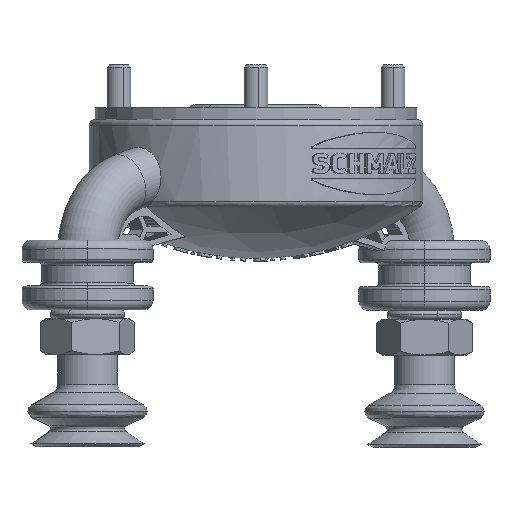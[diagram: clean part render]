
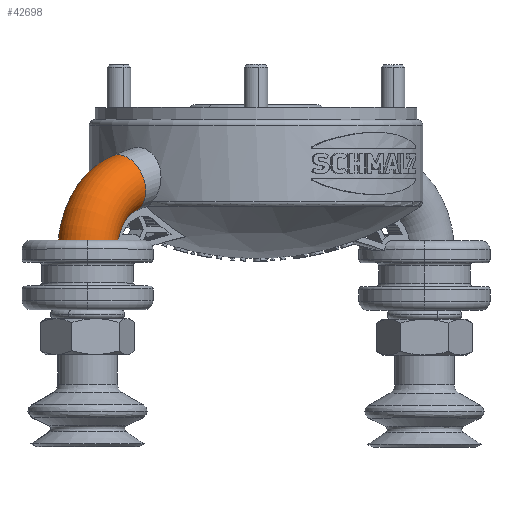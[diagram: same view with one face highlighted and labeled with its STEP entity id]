
A CAD part, top view. The second image highlights one B-rep face of the part: STEP entity #42698.
In plain terms, the highlighted toroidal (fillet/blend) face has major radius 12 mm and minor radius 5 mm.
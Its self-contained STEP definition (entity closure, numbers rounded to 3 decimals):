
#211 = CIRCLE ( 'NONE', #34033, 7.23 ) ;
#1156 = CARTESIAN_POINT ( 'NONE',  ( -23.238, -12., 26.886 ) ) ;
#1603 = CARTESIAN_POINT ( 'NONE',  ( -25.425, -12., 32.361 ) ) ;
#1820 = CARTESIAN_POINT ( 'NONE',  ( -23.19, -12., 28.967 ) ) ;
#2035 = CARTESIAN_POINT ( 'NONE',  ( -33.115, -12., 29.142 ) ) ;
#2721 = CARTESIAN_POINT ( 'NONE',  ( -26.319, -12., 23.406 ) ) ;
#3332 = ORIENTED_EDGE ( 'NONE', *, *, #42890, .F. ) ;
#4003 = ORIENTED_EDGE ( 'NONE', *, *, #20558, .T. ) ;
#4583 = CARTESIAN_POINT ( 'NONE',  ( -32.478, -12., 30.806 ) ) ;
#4811 = CARTESIAN_POINT ( 'NONE',  ( -32.9, -12., 26.498 ) ) ;
#5252 = CARTESIAN_POINT ( 'NONE',  ( -31.523, -12., 31.949 ) ) ;
#5657 = DIRECTION ( 'NONE',  ( -0.679, -0.279, 0.679 ) ) ;
#6719 = CIRCLE ( 'NONE', #10417, 7.23 ) ;
#8039 = CARTESIAN_POINT ( 'NONE',  ( -29.999, -12., 32.873 ) ) ;
#8273 = CARTESIAN_POINT ( 'NONE',  ( -28.84, -12., 33.162 ) ) ;
#8504 = CARTESIAN_POINT ( 'NONE',  ( -32.522, -12., 25.684 ) ) ;
#8717 = CARTESIAN_POINT ( 'NONE',  ( -30.801, -12., 32.481 ) ) ;
#8948 = CARTESIAN_POINT ( 'NONE',  ( -33.202, -12., 28.255 ) ) ;
#9542 = EDGE_LOOP ( 'NONE', ( #3332, #35338, #4003, #31862 ) ) ;
#9883 = DIRECTION ( 'NONE',  ( 0.707, 0., -0.707 ) ) ;
#10417 = AXIS2_PLACEMENT_3D ( 'NONE', #11149, #41788, #18050 ) ;
#11044 = CARTESIAN_POINT ( 'NONE',  ( -19.799, -14., 19.799 ) ) ;
#11149 = CARTESIAN_POINT ( 'NONE',  ( -18.738, -14., 20.86 ) ) ;
#11715 = CARTESIAN_POINT ( 'NONE',  ( -23.144, -12., 28.668 ) ) ;
#11948 = CARTESIAN_POINT ( 'NONE',  ( -23.178, -12., 27.184 ) ) ;
#12174 = CARTESIAN_POINT ( 'NONE',  ( -25.773, -12., 23.651 ) ) ;
#12395 = CARTESIAN_POINT ( 'NONE',  ( -33.161, -12., 28.849 ) ) ;
#12616 = CARTESIAN_POINT ( 'NONE',  ( -23.407, -12., 26.315 ) ) ;
#12876 = DIRECTION ( 'NONE',  ( 0.707, 0., 0.707 ) ) ;
#13032 = DIRECTION ( 'NONE',  ( 0.707, 0., 0.707 ) ) ;
#15163 = CARTESIAN_POINT ( 'NONE',  ( -32.624, -12., 30.548 ) ) ;
#15395 = CARTESIAN_POINT ( 'NONE',  ( -23.112, -12., 27.775 ) ) ;
#15537 = TOROIDAL_SURFACE ( 'NONE', #29493, 12., 5. ) ;
#15713 = VERTEX_POINT ( 'NONE', #35649 ) ;
#15844 = CARTESIAN_POINT ( 'NONE',  ( -23.329, -12., 29.545 ) ) ;
#16062 = CARTESIAN_POINT ( 'NONE',  ( -23.423, -12., 29.826 ) ) ;
#16417 = CIRCLE ( 'NONE', #42169, 5. ) ;
#18050 = DIRECTION ( 'NONE',  ( 0.707, 0., -0.707 ) ) ;
#19065 = CARTESIAN_POINT ( 'NONE',  ( -30.54, -12., 32.628 ) ) ;
#19505 = CARTESIAN_POINT ( 'NONE',  ( -23.106, -12., 28.072 ) ) ;
#19730 = CARTESIAN_POINT ( 'NONE',  ( -31.382, -12., 24.293 ) ) ;
#20558 = EDGE_CURVE ( 'NONE', #38050, #39756, #211, .T. ) ;
#20929 = DIRECTION ( 'NONE',  ( -0.707, 0., -0.707 ) ) ;
#21823 = EDGE_CURVE ( 'NONE', #15713, #38050, #16417, .T. ) ;
#22050 = CARTESIAN_POINT ( 'NONE',  ( -23.805, -12., 30.64 ) ) ;
#22284 = CARTESIAN_POINT ( 'NONE',  ( -29.134, -12., 33.117 ) ) ;
#22507 = CARTESIAN_POINT ( 'NONE',  ( -32.366, -12., 25.432 ) ) ;
#22729 = CARTESIAN_POINT ( 'NONE',  ( -31.295, -12., 32.14 ) ) ;
#22758 = CARTESIAN_POINT ( 'NONE',  ( -20.86, -14., 18.738 ) ) ;
#22952 = CARTESIAN_POINT ( 'NONE',  ( -32.97, -12., 29.721 ) ) ;
#24812 = FACE_OUTER_BOUND ( 'NONE', #9542, .T. ) ;
#25729 = CARTESIAN_POINT ( 'NONE',  ( -23.516, -12., 26.039 ) ) ;
#25961 = CARTESIAN_POINT ( 'NONE',  ( -32.789, -12., 26.216 ) ) ;
#26183 = CARTESIAN_POINT ( 'NONE',  ( -24.725, -12., 31.806 ) ) ;
#26624 = CARTESIAN_POINT ( 'NONE',  ( -29.542, -12., 23.328 ) ) ;
#27322 = CARTESIAN_POINT ( 'NONE',  ( -28.964, -12., 23.189 ) ) ;
#27545 = CARTESIAN_POINT ( 'NONE',  ( -26.038, -12., 23.517 ) ) ;
#29196 = CARTESIAN_POINT ( 'NONE',  ( -24.131, -12., 31.136 ) ) ;
#29430 = CARTESIAN_POINT ( 'NONE',  ( -26.492, -12., 32.898 ) ) ;
#29479 = VERTEX_POINT ( 'NONE', #33157 ) ;
#29493 = AXIS2_PLACEMENT_3D ( 'NONE', #11044, #20929, #35030 ) ;
#29649 = CARTESIAN_POINT ( 'NONE',  ( -23.661, -12., 30.375 ) ) ;
#29867 = CARTESIAN_POINT ( 'NONE',  ( -32.87, -12., 30.007 ) ) ;
#30101 = CARTESIAN_POINT ( 'NONE',  ( -27.352, -12., 33.127 ) ) ;
#30565 = CARTESIAN_POINT ( 'NONE',  ( -27.182, -12., 23.178 ) ) ;
#31244 = CARTESIAN_POINT ( 'NONE',  ( -29.829, -12., 23.424 ) ) ;
#31862 = ORIENTED_EDGE ( 'NONE', *, *, #39765, .F. ) ;
#32679 = CARTESIAN_POINT ( 'NONE',  ( -23.651, -12., 25.773 ) ) ;
#33157 = CARTESIAN_POINT ( 'NONE',  ( -23.651, -12., 25.773 ) ) ;
#33359 = CARTESIAN_POINT ( 'NONE',  ( -24.95, -12., 32.006 ) ) ;
#33579 = CARTESIAN_POINT ( 'NONE',  ( -24.315, -12., 31.37 ) ) ;
#34033 = AXIS2_PLACEMENT_3D ( 'NONE', #22758, #12876, #9883 ) ;
#35030 = DIRECTION ( 'NONE',  ( -0.707, 0., 0.707 ) ) ;
#35338 = ORIENTED_EDGE ( 'NONE', *, *, #21823, .T. ) ;
#35649 = CARTESIAN_POINT ( 'NONE',  ( -20.167, -7.058, 22.288 ) ) ;
#36148 = CARTESIAN_POINT ( 'NONE',  ( -32.137, -12., 31.298 ) ) ;
#36376 = CARTESIAN_POINT ( 'NONE',  ( -31.943, -12., 31.53 ) ) ;
#36597 = CARTESIAN_POINT ( 'NONE',  ( -31.83, -12., 24.713 ) ) ;
#36825 = CARTESIAN_POINT ( 'NONE',  ( -27.949, -12., 33.195 ) ) ;
#37461 = CARTESIAN_POINT ( 'NONE',  ( -22.17, -2.478, 22.17 ) ) ;
#37501 = CARTESIAN_POINT ( 'NONE',  ( -30.376, -12., 23.662 ) ) ;
#37957 = CARTESIAN_POINT ( 'NONE',  ( -28.075, -12., 23.106 ) ) ;
#38050 = VERTEX_POINT ( 'NONE', #38525 ) ;
#38525 = CARTESIAN_POINT ( 'NONE',  ( -22.288, -7.058, 20.167 ) ) ;
#39581 = CARTESIAN_POINT ( 'NONE',  ( -26.213, -12., 32.787 ) ) ;
#39756 = VERTEX_POINT ( 'NONE', #12174 ) ;
#39765 = EDGE_CURVE ( 'NONE', #29479, #39756, #40858, .T. ) ;
#39819 = CARTESIAN_POINT ( 'NONE',  ( -33.07, -12., 27.069 ) ) ;
#40252 = CARTESIAN_POINT ( 'NONE',  ( -28.248, -12., 33.202 ) ) ;
#40478 = CARTESIAN_POINT ( 'NONE',  ( -25.678, -12., 32.518 ) ) ;
#40858 = B_SPLINE_CURVE_WITH_KNOTS ( 'NONE', 3,
 ( #32679, #25729, #12616, #1156, #11948, #15395, #19505, #11715, #1820, #15844, #16062, #29649, #22050, #29196, #33579, #26183, #33359, #1603, #40478, #39581, #29430, #43497, #30101, #36825, #40252, #8273, #22284, #43934, #8039, #19065, #8717, #22729, #5252, #36376, #36148, #4583, #15163, #29867, #22952, #2035, #12395, #8948, #44168, #43259, #39819, #4811, #25961, #8504, #22507, #36597, #19730, #41611, #37501, #31244, #26624, #27322, #45301, #37957, #40924, #30565, #41390, #2721, #27545, #44626 ),
 .UNSPECIFIED., .F., .F.,
 ( 4, 2, 2, 2, 2, 2, 2, 2, 2, 2, 2, 2, 2, 2, 2, 2, 2, 2, 2, 2, 2, 2, 2, 2, 2, 2, 2, 2, 2, 2, 2, 4 ),
 ( 0.009, 0.01, 0.011, 0.012, 0.012, 0.013, 0.014, 0.015, 0.016, 0.017, 0.018, 0.019, 0.02, 0.02, 0.021, 0.022, 0.023, 0.024, 0.025, 0.026, 0.027, 0.028, 0.028, 0.029, 0.03, 0.032, 0.033, 0.034, 0.035, 0.036, 0.036, 0.037 ),
 .UNSPECIFIED. ) ;
#40924 = CARTESIAN_POINT ( 'NONE',  ( -27.773, -12., 23.113 ) ) ;
#41390 = CARTESIAN_POINT ( 'NONE',  ( -26.891, -12., 23.236 ) ) ;
#41611 = CARTESIAN_POINT ( 'NONE',  ( -30.637, -12., 23.803 ) ) ;
#41788 = DIRECTION ( 'NONE',  ( 0.707, 0., 0.707 ) ) ;
#42169 = AXIS2_PLACEMENT_3D ( 'NONE', #37461, #5657, #13032 ) ;
#42698 = ADVANCED_FACE ( 'NONE', ( #24812 ), #15537, .T. ) ;
#42890 = EDGE_CURVE ( 'NONE', #15713, #29479, #6719, .T. ) ;
#43259 = CARTESIAN_POINT ( 'NONE',  ( -33.129, -12., 27.36 ) ) ;
#43497 = CARTESIAN_POINT ( 'NONE',  ( -27.061, -12., 33.068 ) ) ;
#43934 = CARTESIAN_POINT ( 'NONE',  ( -29.718, -12., 32.971 ) ) ;
#44168 = CARTESIAN_POINT ( 'NONE',  ( -33.195, -12., 27.952 ) ) ;
#44626 = CARTESIAN_POINT ( 'NONE',  ( -25.773, -12., 23.651 ) ) ;
#45301 = CARTESIAN_POINT ( 'NONE',  ( -28.67, -12., 23.144 ) ) ;
